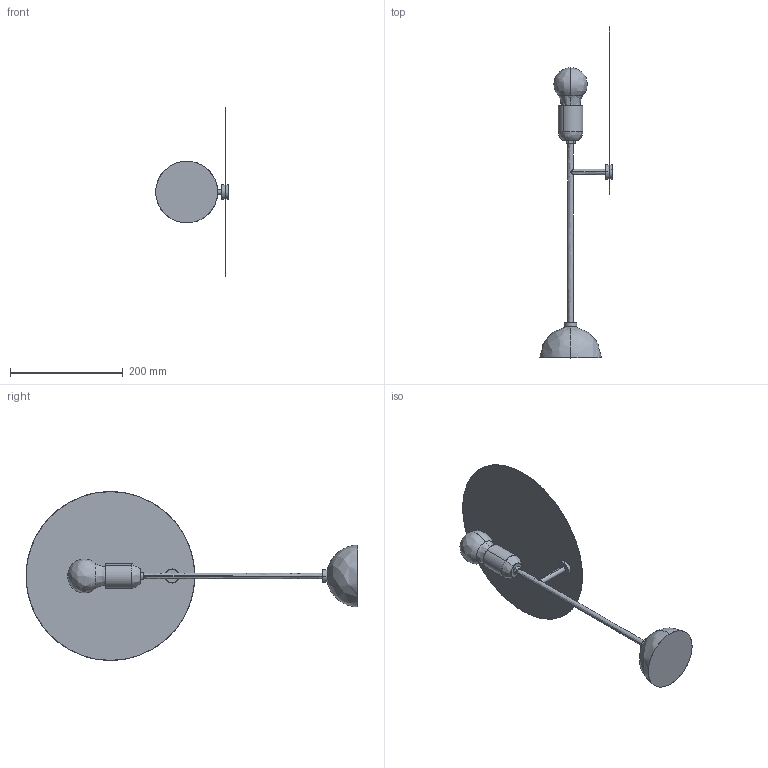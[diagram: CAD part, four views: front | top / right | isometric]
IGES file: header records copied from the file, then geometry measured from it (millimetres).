
Start section: SolidWorks IGES file using analytic representation for surfaces
Global section: file name: C:\Users\tungari.NEMOLIGHTING\Desktop\3D\TABLE\3D_KUTA_TABLE\DEFEATURE\3D_KUTA_TABLE.IGS; native system: SolidWorks 2016; preprocessor: SolidWorks 2016; author: tungari; date: 180301.113303; units: millimetre
Bounding box: 129 x 590 x 300 mm (x, y, z)
Surface area: 213685.2 mm2 (no closed solid volume)
Topology: 0 solids, 0 shells, 69 faces, 1522 edges, 1520 vertices
Faces by surface type: revolution 37, bspline 32
